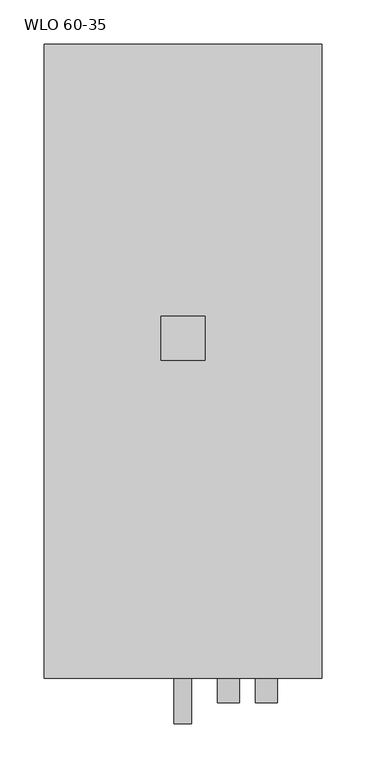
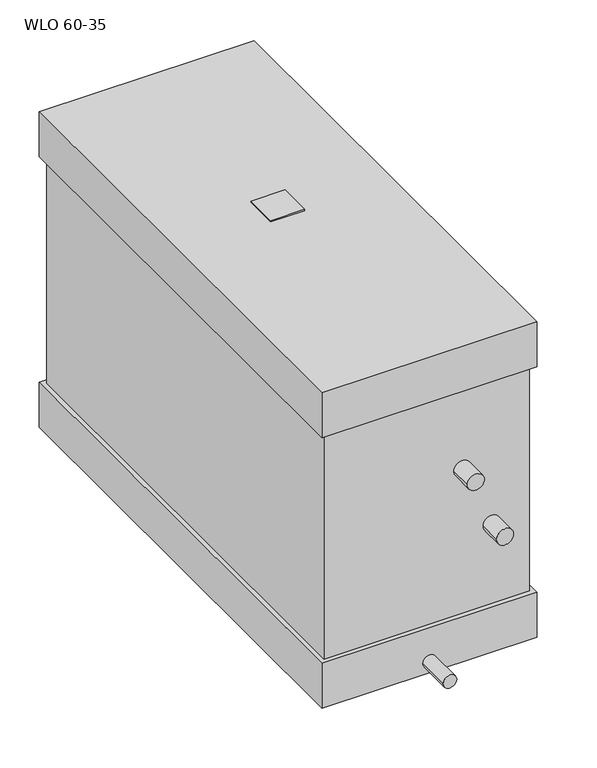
"""IFC4 building model written with IfcOpenShell, lengths in millimetres: proxy geometry, KORF_Воздухоохладитель_Водяной_WLO_Левый : WLO 60-35."""

from ifc_helpers import new_model, si_unit, point, frame, frame_2d, origin, place, context, project, spatial, polyline, circle_curve, trimmed, segment, composite_curve, outline, extrude, faceted_brep, source, transform, mapped, element, save


def wlo_60_35_f9e17485(model_context):
    return source(origin(), model_context, "Body", "SolidModel", [
        extrude(outline(polyline([(133.0, -25.0), (133.0, 25.0), (183.0, 25.0), (183.0, -25.0), (133.0, -25.0)])), frame((0.0, 0.0, 245.0), z_axis=(0.0, 0.0, 1.0), x_axis=(1.0, 0.0, 0.0)), (0.0, 0.0, 1.0), 2.0),
        faceted_brep([(316.0, -386.0, 245.0), (316.0, -386.0, 175.0), (316.0, 334.0, 175.0), (316.0, 334.0, 245.0), (316.0, -386.0, -175.0), (316.0, -386.0, -245.0), (316.0, 334.0, -245.0), (316.0, 334.0, -175.0), (0.0, -386.0, 245.0), (0.0, 334.0, 245.0), (0.0, 334.0, 175.0), (0.0, -386.0, 175.0), (0.0, -386.0, -175.0), (0.0, 334.0, -175.0), (0.0, 334.0, -245.0), (0.0, -386.0, -245.0), (7.0, -379.0, 175.0), (309.0, -379.0, 175.0), (309.0, -300.0, 175.0), (309.0, 300.0, 175.0), (309.0, 327.0, 175.0), (7.0, 327.0, 175.0), (7.0, 300.0, 175.0), (7.0, -300.0, 175.0), (309.0, -379.0, -175.0), (7.0, -379.0, -175.0), (7.0, -300.0, -175.0), (7.0, 300.0, -175.0), (7.0, 327.0, -175.0), (309.0, 327.0, -175.0), (309.0, 300.0, -175.0), (309.0, -300.0, -175.0)], [[[0, 1, 2, 3]], [[4, 5, 6, 7]], [[8, 9, 10, 11]], [[12, 13, 14, 15]], [[1, 0, 8, 11]], [[2, 1, 11, 10], [16, 17, 18, 19, 20, 21, 22, 23]], [[3, 2, 10, 9]], [[0, 3, 9, 8]], [[5, 4, 12, 15]], [[6, 5, 15, 14]], [[7, 6, 14, 13]], [[4, 7, 13, 12], [24, 25, 26, 27, 28, 29, 30, 31]], [[17, 24, 31, 30, 29, 20, 19, 18]], [[21, 28, 27, 26, 25, 16, 23, 22]], [[24, 17, 16, 25]], [[20, 29, 28, 21]]]),
        extrude(outline(composite_curve([segment(trimmed(circle_curve(frame_2d((50.0, 210.0)), 12.5), [point((50.0, 197.5))], [point((50.0, 222.5))], False, "CARTESIAN"), True, "CONTINUOUS"), segment(trimmed(circle_curve(frame_2d((50.0, 210.0)), 12.5), [point((50.0, 222.5))], [point((50.0, 197.5))], False, "CARTESIAN"), True, "CONTINUOUS")], self_intersect=False)), frame((0.0, -414.0, 0.0), z_axis=(0.0, 1.0, 0.0), x_axis=(0.0, 0.0, 1.0)), (0.0, 0.0, 1.0), 35.0),
        extrude(outline(composite_curve([segment(trimmed(circle_curve(frame_2d((-50.0, 253.0)), 12.5), [point((-50.0, 240.5))], [point((-50.0, 265.5))], False, "CARTESIAN"), True, "CONTINUOUS"), segment(trimmed(circle_curve(frame_2d((-50.0, 253.0)), 12.5), [point((-50.0, 265.5))], [point((-50.0, 240.5))], False, "CARTESIAN"), True, "CONTINUOUS")], self_intersect=False)), frame((0.0, -414.0, 0.0), z_axis=(0.0, 1.0, 0.0), x_axis=(0.0, 0.0, 1.0)), (0.0, 0.0, 1.0), 35.0),
        extrude(outline(composite_curve([segment(trimmed(circle_curve(frame_2d((-227.0, 158.0)), 10.0), [point((-227.0, 148.0))], [point((-227.0, 168.0))], False, "CARTESIAN"), True, "CONTINUOUS"), segment(trimmed(circle_curve(frame_2d((-227.0, 158.0)), 10.0), [point((-227.0, 168.0))], [point((-227.0, 148.0))], False, "CARTESIAN"), True, "CONTINUOUS")], self_intersect=False)), frame((0.0, -438.0, 0.0), z_axis=(0.0, 1.0, 0.0), x_axis=(0.0, 0.0, 1.0)), (0.0, 0.0, 1.0), 52.0),
    ])


if __name__ == "__main__":
    model = new_model("IFC4")
    model_context = context("Model", 3, world=origin())
    ifc_project = project(units=[si_unit("LENGTHUNIT", "METRE", prefix="MILLI")], contexts=[model_context])
    site = spatial("IfcSite", under=ifc_project)
    building = spatial("IfcBuilding", under=site)
    placement = place(None, origin())
    wlo_60_35_shape = wlo_60_35_f9e17485(model_context)
    element("IfcBuildingElementProxy", 1, Name="KORF_Воздухоохладитель_Водяной_WLO_Левый : WLO 60-35", ObjectType="KORF_Воздухоохладитель_Водяной_WLO_Левый : WLO 60-35", at=placement, inside=building, context=model_context, shape_type="MappedRepresentation", body=[
        mapped(wlo_60_35_shape, transform((0.0, 0.0, 0.0), x_axis=(1.0, 0.0, 0.0), y_axis=(0.0, 1.0, 0.0), z_axis=(0.0, 0.0, 1.0))),
    ])
    save(model, "model.ifc")
